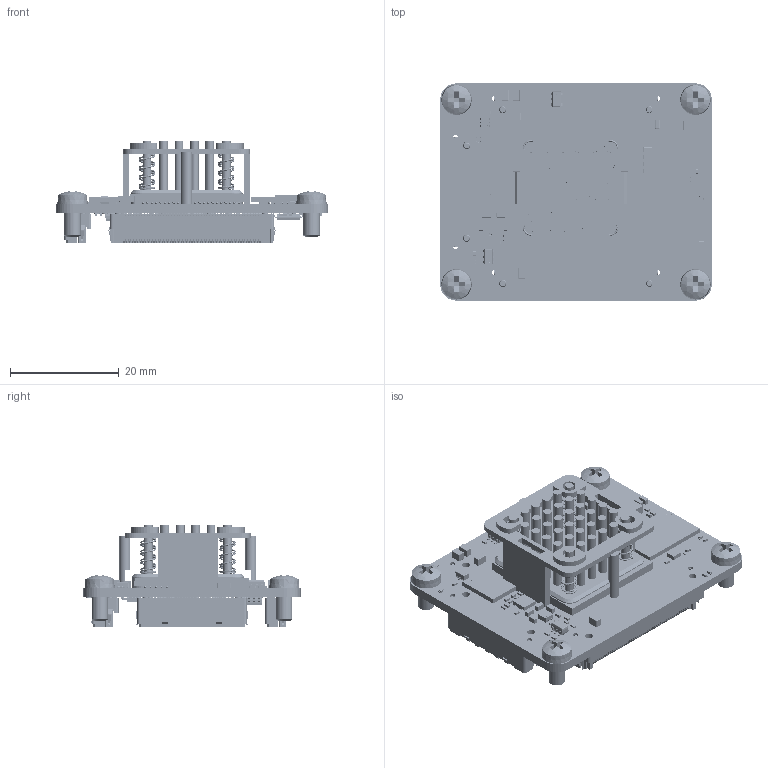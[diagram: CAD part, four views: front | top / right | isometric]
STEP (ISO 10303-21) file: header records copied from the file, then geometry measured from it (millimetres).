
FILE_DESCRIPTION(('Open CASCADE Model'),'2;1');
FILE_NAME('Open CASCADE Shape Model','2026-01-27T14:42:06',('Author'),( 'Open CASCADE'),'Open CASCADE STEP processor 7.5','Open CASCADE 7.5' ,'Unknown');
FILE_SCHEMA(('AUTOMOTIVE_DESIGN { 1 0 10303 214 1 1 1 1 }'));
Length unit declared in the file: millimetre
Products named in the file (278): PCB; Board=projectname; Open CASCADE STEP translator 7.5 1.1.1; R52=projectname; 8595299216; R51=projectname; 8595295424; R53=projectname; R50=projectname; 8595290048; R49=projectname; R48=projectname; R23=projectname; 8595295232; R22=projectname; R21=projectname; D5=projectname; led_0402LED0402 green; C64=projectname; User Library-SMD 0201 CAPACITOR; C62=projectname; U12=projectname; 9283835696; Cylinder; 9283836080; Extruded; R47=projectname; C60=projectname; C91=projectname; C90=projectname; C89=projectname; User Library-SMD CAPACITOR0402; C87=projectname; 8595290624; C86=projectname; 8595288512; C83=projectname; U4=projectname; SW3dPS-JEDEC MO-153 (TSSOP); T1=projectname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
Assembly tree (460 placements, depth 4):
  PCB
    Board=projectname
      Open CASCADE STEP translator 7.5 1.1.1
    R52=projectname
      8595299216
    R51=projectname
      8595295424
    R53=projectname
      8595299216
    R50=projectname
      8595290048
    R49=projectname
      8595295424
    R48=projectname
      8595295424
    R23=projectname
      8595295232
    R22=projectname
      8595299216
    R21=projectname
      8595295424
    D5=projectname
      led_0402LED0402 green
    C64=projectname
      User Library-SMD 0201 CAPACITOR
    C62=projectname
      User Library-SMD 0201 CAPACITOR
    U12=projectname
      9283835696
        Cylinder
      9283836080
        Extruded
    R47=projectname
      8595295232
    C60=projectname
      User Library-SMD 0201 CAPACITOR
    C91=projectname
      User Library-SMD 0201 CAPACITOR
    C90=projectname
      User Library-SMD 0201 CAPACITOR
    C89=projectname
      User Library-SMD CAPACITOR0402
    C87=projectname
      8595290624
    C86=projectname
      8595288512
    C83=projectname
      User Library-SMD CAPACITOR0402
    U4=projectname
      SW3dPS-JEDEC MO-153 (TSSOP)
    T1=projectname
      8595291392
    R45=projectname
      8595295232
    R39=projectname
      8595295424
    R6=projectname
      8595299216
    R2=projectname
      8595295232
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Bounding box: 50 x 40 x 18.8 mm (x, y, z)
Volume: 8563.6 mm3; surface area: 20534.6 mm2
Topology: 1183 solids, 1187 shells, 22438 faces, 59938 edges, 36741 vertices
Faces by surface type: plane 13202, cylinder 6191, sphere 2898, bspline 84, cone 37, torus 26
Full cylindrical faces by diameter (mm): 0.4 x1, 0.6 x2, 0.8 x1, 1 x12, 1.32 x3, 1.45 x6, 3.2 x4
Entity records: 394507 total; most frequent: CARTESIAN_POINT 69312, ORIENTED_EDGE 53370, DIRECTION 50860, EDGE_CURVE 26685, LINE 19270, VECTOR 19270, VERTEX_POINT 18415, AXIS2_PLACEMENT_3D 15795
